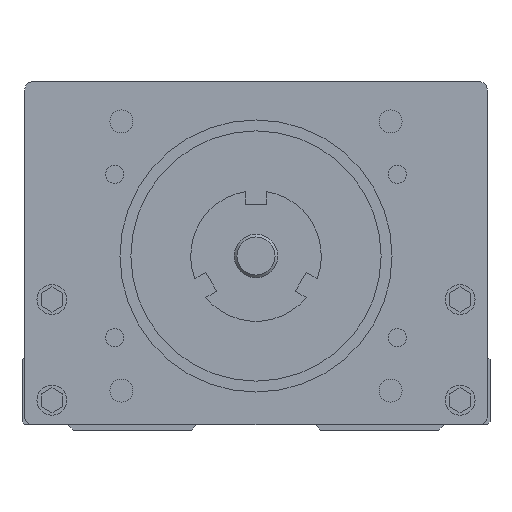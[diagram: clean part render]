
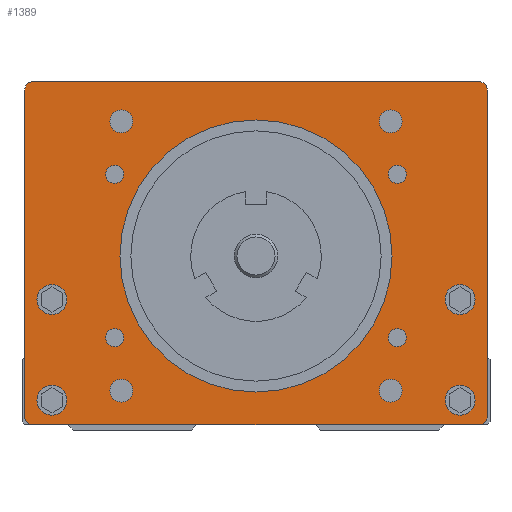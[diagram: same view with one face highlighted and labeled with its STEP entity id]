
A CAD part, front view. The second image highlights one B-rep face of the part: STEP entity #1389.
In plain terms, the highlighted planar face has unit normal (0, -1, 0).
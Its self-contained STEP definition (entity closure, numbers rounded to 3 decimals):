
#695=CIRCLE('',#8827,1.5);
#702=CIRCLE('',#8838,1.5);
#703=CIRCLE('',#8840,1.5);
#704=CIRCLE('',#8841,1.5);
#705=CIRCLE('',#8842,2.75);
#706=CIRCLE('',#8843,2.75);
#707=CIRCLE('',#8844,2.75);
#708=CIRCLE('',#8845,2.75);
#709=CIRCLE('',#8846,25.);
#710=CIRCLE('',#8847,1.65);
#711=CIRCLE('',#8848,1.65);
#712=CIRCLE('',#8849,1.65);
#713=CIRCLE('',#8850,1.65);
#714=CIRCLE('',#8851,2.1);
#715=CIRCLE('',#8852,2.1);
#716=CIRCLE('',#8853,2.1);
#717=CIRCLE('',#8854,2.1);
#1028=FACE_BOUND('',#2568,.T.);
#1029=FACE_BOUND('',#2569,.T.);
#1030=FACE_BOUND('',#2570,.T.);
#1031=FACE_BOUND('',#2571,.T.);
#1032=FACE_BOUND('',#2572,.T.);
#1033=FACE_BOUND('',#2573,.T.);
#1034=FACE_BOUND('',#2574,.T.);
#1035=FACE_BOUND('',#2575,.T.);
#1036=FACE_BOUND('',#2576,.T.);
#1037=FACE_BOUND('',#2577,.T.);
#1038=FACE_BOUND('',#2578,.T.);
#1039=FACE_BOUND('',#2579,.T.);
#1040=FACE_BOUND('',#2580,.T.);
#1041=FACE_BOUND('',#2581,.T.);
#1389=ADVANCED_FACE('',(#1028,#1029,#1030,#1031,#1032,#1033,#1034,#1035,
#1036,#1037,#1038,#1039,#1040,#1041),#1877,.F.);
#1877=PLANE('',#8855);
#2568=EDGE_LOOP('',(#3559,#3560,#3561,#3562,#3563,#3564,#3565,#3566));
#2569=EDGE_LOOP('',(#3567));
#2570=EDGE_LOOP('',(#3568));
#2571=EDGE_LOOP('',(#3569));
#2572=EDGE_LOOP('',(#3570));
#2573=EDGE_LOOP('',(#3571));
#2574=EDGE_LOOP('',(#3572));
#2575=EDGE_LOOP('',(#3573));
#2576=EDGE_LOOP('',(#3574));
#2577=EDGE_LOOP('',(#3575));
#2578=EDGE_LOOP('',(#3576));
#2579=EDGE_LOOP('',(#3577));
#2580=EDGE_LOOP('',(#3578));
#2581=EDGE_LOOP('',(#3579));
#3559=ORIENTED_EDGE('',*,*,#6199,.T.);
#3560=ORIENTED_EDGE('',*,*,#6429,.F.);
#3561=ORIENTED_EDGE('',*,*,#6390,.T.);
#3562=ORIENTED_EDGE('',*,*,#6428,.F.);
#3563=ORIENTED_EDGE('',*,*,#6415,.T.);
#3564=ORIENTED_EDGE('',*,*,#6413,.F.);
#3565=ORIENTED_EDGE('',*,*,#6405,.T.);
#3566=ORIENTED_EDGE('',*,*,#6430,.F.);
#3567=ORIENTED_EDGE('',*,*,#6431,.F.);
#3568=ORIENTED_EDGE('',*,*,#6432,.F.);
#3569=ORIENTED_EDGE('',*,*,#6433,.F.);
#3570=ORIENTED_EDGE('',*,*,#6434,.F.);
#3571=ORIENTED_EDGE('',*,*,#6435,.F.);
#3572=ORIENTED_EDGE('',*,*,#6436,.F.);
#3573=ORIENTED_EDGE('',*,*,#6437,.F.);
#3574=ORIENTED_EDGE('',*,*,#6438,.F.);
#3575=ORIENTED_EDGE('',*,*,#6439,.F.);
#3576=ORIENTED_EDGE('',*,*,#6440,.F.);
#3577=ORIENTED_EDGE('',*,*,#6441,.F.);
#3578=ORIENTED_EDGE('',*,*,#6442,.F.);
#3579=ORIENTED_EDGE('',*,*,#6443,.F.);
#5432=VERTEX_POINT('',#12118);
#5433=VERTEX_POINT('',#12120);
#5575=VERTEX_POINT('',#12536);
#5576=VERTEX_POINT('',#12538);
#5589=VERTEX_POINT('',#12568);
#5590=VERTEX_POINT('',#12570);
#5594=VERTEX_POINT('',#12586);
#5595=VERTEX_POINT('',#12590);
#5605=VERTEX_POINT('',#12620);
#5606=VERTEX_POINT('',#12622);
#5607=VERTEX_POINT('',#12624);
#5608=VERTEX_POINT('',#12626);
#5609=VERTEX_POINT('',#12628);
#5610=VERTEX_POINT('',#12630);
#5611=VERTEX_POINT('',#12632);
#5612=VERTEX_POINT('',#12634);
#5613=VERTEX_POINT('',#12636);
#5614=VERTEX_POINT('',#12638);
#5615=VERTEX_POINT('',#12640);
#5616=VERTEX_POINT('',#12642);
#5617=VERTEX_POINT('',#12644);
#6199=EDGE_CURVE('',#5433,#5432,#7304,.T.);
#6390=EDGE_CURVE('',#5576,#5575,#7436,.T.);
#6405=EDGE_CURVE('',#5590,#5589,#7447,.T.);
#6413=EDGE_CURVE('',#5590,#5594,#695,.T.);
#6415=EDGE_CURVE('',#5595,#5594,#7452,.T.);
#6428=EDGE_CURVE('',#5595,#5575,#702,.T.);
#6429=EDGE_CURVE('',#5576,#5432,#703,.T.);
#6430=EDGE_CURVE('',#5433,#5589,#704,.T.);
#6431=EDGE_CURVE('',#5605,#5605,#705,.T.);
#6432=EDGE_CURVE('',#5606,#5606,#706,.T.);
#6433=EDGE_CURVE('',#5607,#5607,#707,.T.);
#6434=EDGE_CURVE('',#5608,#5608,#708,.T.);
#6435=EDGE_CURVE('',#5609,#5609,#709,.T.);
#6436=EDGE_CURVE('',#5610,#5610,#710,.T.);
#6437=EDGE_CURVE('',#5611,#5611,#711,.T.);
#6438=EDGE_CURVE('',#5612,#5612,#712,.T.);
#6439=EDGE_CURVE('',#5613,#5613,#713,.T.);
#6440=EDGE_CURVE('',#5614,#5614,#714,.T.);
#6441=EDGE_CURVE('',#5615,#5615,#715,.T.);
#6442=EDGE_CURVE('',#5616,#5616,#716,.T.);
#6443=EDGE_CURVE('',#5617,#5617,#717,.T.);
#7304=LINE('',#12119,#8025);
#7436=LINE('',#12537,#8157);
#7447=LINE('',#12569,#8168);
#7452=LINE('',#12589,#8173);
#8025=VECTOR('',#9626,1.);
#8157=VECTOR('',#9940,1.);
#8168=VECTOR('',#9965,1.);
#8173=VECTOR('',#9990,1.);
#8827=AXIS2_PLACEMENT_3D('',#12585,#9985,#9986);
#8838=AXIS2_PLACEMENT_3D('',#12615,#10015,#10016);
#8840=AXIS2_PLACEMENT_3D('',#12617,#10019,#10020);
#8841=AXIS2_PLACEMENT_3D('',#12618,#10021,#10022);
#8842=AXIS2_PLACEMENT_3D('',#12619,#10023,#10024);
#8843=AXIS2_PLACEMENT_3D('',#12621,#10025,#10026);
#8844=AXIS2_PLACEMENT_3D('',#12623,#10027,#10028);
#8845=AXIS2_PLACEMENT_3D('',#12625,#10029,#10030);
#8846=AXIS2_PLACEMENT_3D('',#12627,#10031,#10032);
#8847=AXIS2_PLACEMENT_3D('',#12629,#10033,#10034);
#8848=AXIS2_PLACEMENT_3D('',#12631,#10035,#10036);
#8849=AXIS2_PLACEMENT_3D('',#12633,#10037,#10038);
#8850=AXIS2_PLACEMENT_3D('',#12635,#10039,#10040);
#8851=AXIS2_PLACEMENT_3D('',#12637,#10041,#10042);
#8852=AXIS2_PLACEMENT_3D('',#12639,#10043,#10044);
#8853=AXIS2_PLACEMENT_3D('',#12641,#10045,#10046);
#8854=AXIS2_PLACEMENT_3D('',#12643,#10047,#10048);
#8855=AXIS2_PLACEMENT_3D('',#12645,#10049,#10050);
#9626=DIRECTION('',(1.,0.,0.));
#9940=DIRECTION('',(0.,0.,1.));
#9965=DIRECTION('',(0.,0.,-1.));
#9985=DIRECTION('',(0.,1.,0.));
#9986=DIRECTION('',(-1.,0.,0.));
#9990=DIRECTION('',(-1.,0.,0.));
#10015=DIRECTION('',(0.,1.,0.));
#10016=DIRECTION('',(0.,0.,1.));
#10019=DIRECTION('',(0.,1.,0.));
#10020=DIRECTION('',(1.,0.,0.));
#10021=DIRECTION('',(0.,1.,0.));
#10022=DIRECTION('',(0.,0.,-1.));
#10023=DIRECTION('',(0.,-1.,0.));
#10024=DIRECTION('',(0.,0.,1.));
#10025=DIRECTION('',(0.,-1.,0.));
#10026=DIRECTION('',(0.,0.,1.));
#10027=DIRECTION('',(0.,-1.,0.));
#10028=DIRECTION('',(0.,0.,1.));
#10029=DIRECTION('',(0.,-1.,0.));
#10030=DIRECTION('',(0.,0.,1.));
#10031=DIRECTION('',(0.,-1.,0.));
#10032=DIRECTION('',(1.,0.,0.));
#10033=DIRECTION('',(0.,-1.,0.));
#10034=DIRECTION('',(1.,0.,0.));
#10035=DIRECTION('',(0.,-1.,0.));
#10036=DIRECTION('',(1.,0.,0.));
#10037=DIRECTION('',(0.,-1.,0.));
#10038=DIRECTION('',(1.,0.,0.));
#10039=DIRECTION('',(0.,-1.,0.));
#10040=DIRECTION('',(1.,0.,0.));
#10041=DIRECTION('',(0.,-1.,0.));
#10042=DIRECTION('',(1.,0.,0.));
#10043=DIRECTION('',(0.,-1.,0.));
#10044=DIRECTION('',(1.,0.,0.));
#10045=DIRECTION('',(0.,-1.,0.));
#10046=DIRECTION('',(1.,0.,0.));
#10047=DIRECTION('',(0.,-1.,0.));
#10048=DIRECTION('',(1.,0.,0.));
#10049=DIRECTION('',(0.,1.,0.));
#10050=DIRECTION('',(1.,0.,0.));
#12118=CARTESIAN_POINT('',(41.,50.,0.));
#12119=CARTESIAN_POINT('',(-41.,50.,0.));
#12120=CARTESIAN_POINT('',(-41.,50.,0.));
#12536=CARTESIAN_POINT('',(42.5,50.,61.5));
#12537=CARTESIAN_POINT('',(42.5,50.,1.5));
#12538=CARTESIAN_POINT('',(42.5,50.,1.5));
#12568=CARTESIAN_POINT('',(-42.5,50.,1.5));
#12569=CARTESIAN_POINT('',(-42.5,50.,61.5));
#12570=CARTESIAN_POINT('',(-42.5,50.,61.5));
#12585=CARTESIAN_POINT('',(-41.,50.,61.5));
#12586=CARTESIAN_POINT('',(-41.,50.,63.));
#12589=CARTESIAN_POINT('',(41.,50.,63.));
#12590=CARTESIAN_POINT('',(41.,50.,63.));
#12615=CARTESIAN_POINT('',(41.,50.,61.5));
#12617=CARTESIAN_POINT('',(41.,50.,1.5));
#12618=CARTESIAN_POINT('',(-41.,50.,1.5));
#12619=CARTESIAN_POINT('',(37.5,50.,4.5));
#12620=CARTESIAN_POINT('',(37.5,50.,7.25));
#12621=CARTESIAN_POINT('',(37.5,50.,23.));
#12622=CARTESIAN_POINT('',(37.5,50.,25.75));
#12623=CARTESIAN_POINT('',(-37.5,50.,23.));
#12624=CARTESIAN_POINT('',(-37.5,50.,25.75));
#12625=CARTESIAN_POINT('',(-37.5,50.,4.5));
#12626=CARTESIAN_POINT('',(-37.5,50.,7.25));
#12627=CARTESIAN_POINT('',(0.,50.,31.));
#12628=CARTESIAN_POINT('',(25.,50.,31.));
#12629=CARTESIAN_POINT('',(-25.981,50.,46.));
#12630=CARTESIAN_POINT('',(-24.331,50.,46.));
#12631=CARTESIAN_POINT('',(-25.981,50.,16.));
#12632=CARTESIAN_POINT('',(-24.331,50.,16.));
#12633=CARTESIAN_POINT('',(25.981,50.,16.));
#12634=CARTESIAN_POINT('',(27.631,50.,16.));
#12635=CARTESIAN_POINT('',(25.981,50.,46.));
#12636=CARTESIAN_POINT('',(27.631,50.,46.));
#12637=CARTESIAN_POINT('',(24.749,50.,55.749));
#12638=CARTESIAN_POINT('',(26.849,50.,55.749));
#12639=CARTESIAN_POINT('',(24.749,50.,6.251));
#12640=CARTESIAN_POINT('',(26.849,50.,6.251));
#12641=CARTESIAN_POINT('',(-24.749,50.,6.251));
#12642=CARTESIAN_POINT('',(-22.649,50.,6.251));
#12643=CARTESIAN_POINT('',(-24.749,50.,55.749));
#12644=CARTESIAN_POINT('',(-22.649,50.,55.749));
#12645=CARTESIAN_POINT('',(0.,50.,31.));
